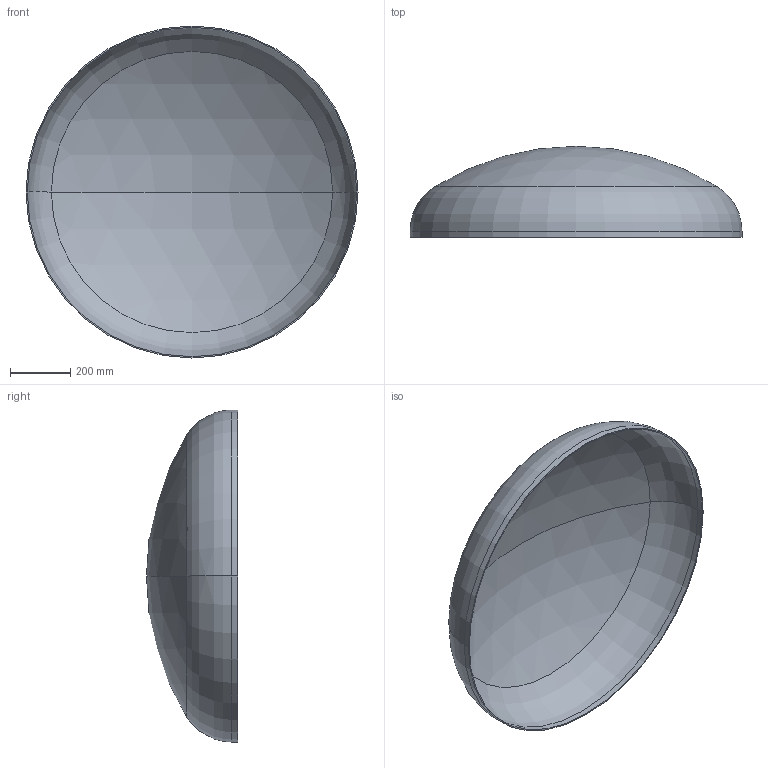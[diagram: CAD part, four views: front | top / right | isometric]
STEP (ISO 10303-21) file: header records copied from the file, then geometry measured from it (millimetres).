
FILE_DESCRIPTION (( 'STEP AP203' ), '1' );
FILE_NAME ('DIN 28013 Korbbogenform_-_Boden DIN 28013 - 1100 x 20 - I - s=4.step', '2016-07-01T08:59:16', ( '' ), ( '' ), 'SwSTEP 2.0', 'SolidWorks 2013', '' );
FILE_SCHEMA (( 'CONFIG_CONTROL_DESIGN' ));
Length unit declared in the file: millimetre
Products named in the file (1): DIN 28013 Korbbogenform_-_Boden DIN 28013 - 1100 x 20 - I - s=4
Bounding box: 1100 x 301.73 x 1100 mm (x, y, z)
Volume: 5518900.9 mm3; surface area: 2773255.6 mm2
Topology: 1 solids, 1 shells, 13 faces, 24 edges, 14 vertices
Faces by surface type: torus 4, cylinder 4, sphere 4, plane 1
Entity records: 407 total; most frequent: DIRECTION 72, CARTESIAN_POINT 52, ORIENTED_EDGE 48, AXIS2_PLACEMENT_3D 34, EDGE_CURVE 24, CIRCLE 20, VERTEX_POINT 14, EDGE_LOOP 14
